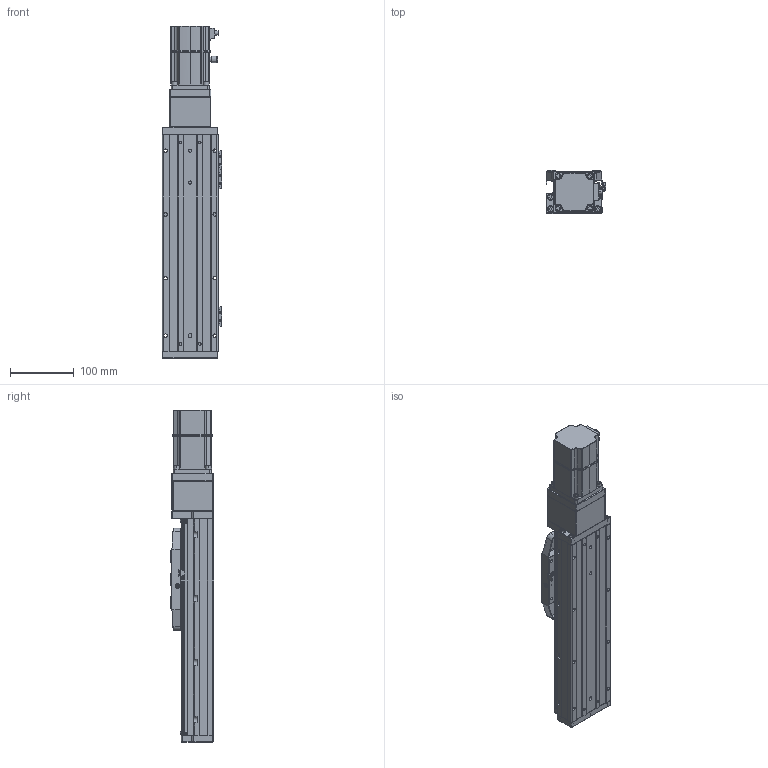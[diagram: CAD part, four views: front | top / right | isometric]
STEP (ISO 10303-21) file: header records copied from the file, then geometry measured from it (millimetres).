
FILE_DESCRIPTION (( 'STEP AP203' ), '1' );
FILE_NAME ('CTHA86-150-BC-M20-C4L.step', '2022-04-26T00:46:02', ( '微软用户' ), ( '微软中国' ), 'SwSTEP 2.0', 'SolidWorks 2020', '' );
FILE_SCHEMA (( 'CONFIG_CONTROL_DESIGN' ));
Length unit declared in the file: millimetre
Products named in the file (22): KTHA86-001_340; GBT77-2000 M3×3; CTHA86-027; CTHA86-150-BC-M20-C4L; KTHA86-004; GBT 70.1-M3×20; CTHA86-006-1_CTHA86-006-2; KTHA86-005; GBT70.1 M5℅16; _X2_4E0983F1_X0_200W_1; GB¨uT 70.2-M3¡Á5_M3¡Á6; GBT 70.1-M3×16; GBT 70.3-M3℅6; EE_SX911P_R; GBT 70.1-M3℅6; CTHA86-002; CTHA60-017; CTHA60-016; CTHA86-031; CTHA60-021; CTHA86-013; CTHA86-030
Assembly tree (65 placements, depth 2):
  CTHA86-150-BC-M20-C4L
    KTHA86-001_340
    KTHA86-004
    KTHA86-005
    GB¨uT 70.2-M3¡Á5_M3¡Á6  x10
    EE_SX911P_R  x3
    CTHA60-017  x3
    CTHA60-021  x2
    GBT77-2000 M3×3  x6
    GBT 70.1-M3×20
    GBT70.1 M5℅16  x14
    GBT 70.1-M3×16
    GBT 70.1-M3℅6  x6
    CTHA60-016  x2
    CTHA86-013
    CTHA86-027
    CTHA86-006-1_CTHA86-006-2
    _X2_4E0983F1_X0_200W_1
    GBT 70.3-M3℅6  x6
    CTHA86-002
    CTHA86-031
    CTHA86-030  x2
Bounding box: 93.82 x 68 x 520.5 mm (x, y, z)
Volume: 1883581.9 mm3; surface area: 360913.5 mm2
Topology: 67 solids, 67 shells, 2634 faces, 6247 edges, 3832 vertices
Faces by surface type: plane 1368, cylinder 673, cone 380, torus 120, bspline 69, sphere 24
Entity records: 45045 total; most frequent: CARTESIAN_POINT 8400, DIRECTION 7048, ORIENTED_EDGE 6750, EDGE_CURVE 3375, AXIS2_PLACEMENT_3D 2416, LINE 2216, VECTOR 2216, VERTEX_POINT 2110
